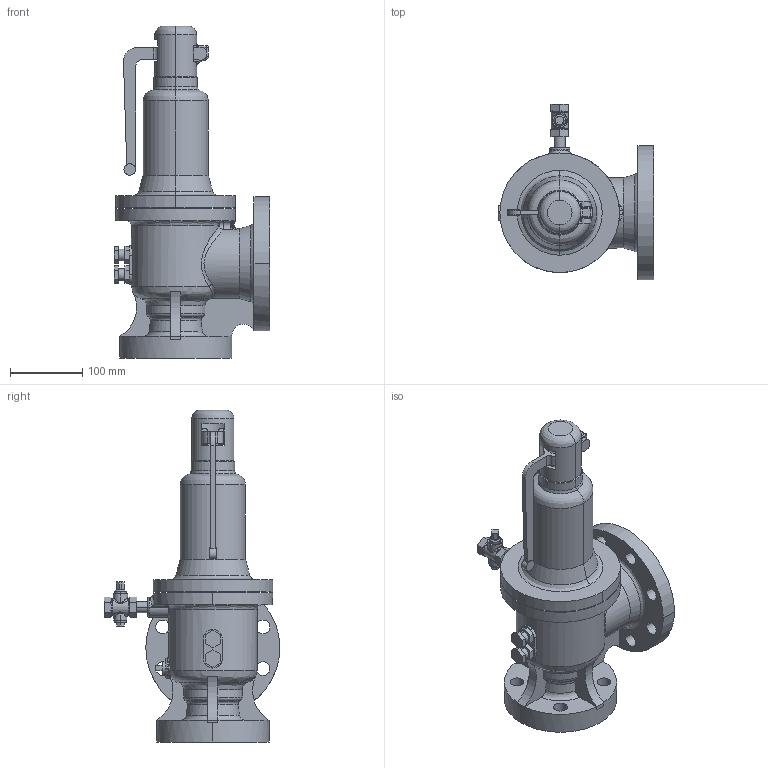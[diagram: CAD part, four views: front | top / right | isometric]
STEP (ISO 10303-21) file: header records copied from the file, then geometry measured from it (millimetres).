
FILE_DESCRIPTION( (''), '2;1');
FILE_NAME ('PC1027.9568.AF-4 50A_30965.stp','2025-07-28T12:49:31',(''),(''),'spGate 19.8.4 (****-****-****-****)','','');
FILE_SCHEMA (('AUTOMOTIVE_DESIGN'));
Length unit declared in the file: millimetre
Products named in the file (7): Assembly; AF-4 本体部P 50A; 止めボルト 50A; プラグ 10A; 背圧絞り弁 50A; レバーキャップ 50A; レバー 50A
Assembly tree (7 placements, depth 2):
  Assembly
    AF-4 本体部P 50A
    止めボルト 50A  x2
    プラグ 10A
    背圧絞り弁 50A
    レバーキャップ 50A
    レバー 50A
Bounding box: 215 x 242.5 x 458 mm (x, y, z)
Volume: 4854630.6 mm3; surface area: 372637.3 mm2
Topology: 7 solids, 7 shells, 403 faces, 1044 edges, 668 vertices
Faces by surface type: plane 154, bspline 124, cylinder 123, sphere 2
Entity records: 34089 total; most frequent: CARTESIAN_POINT 17333, ORIENTED_EDGE 1992, DIRECTION 1682, COLOUR_RGB 1387, PRESENTATION_STYLE_ASSIGNMENT 1387, STYLED_ITEM 1387, EDGE_CURVE 996, DRAUGHTING_PRE_DEFINED_CURVE_FONT 996
